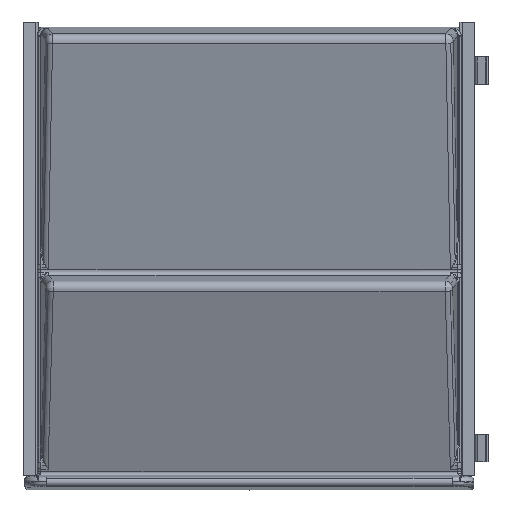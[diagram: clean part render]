
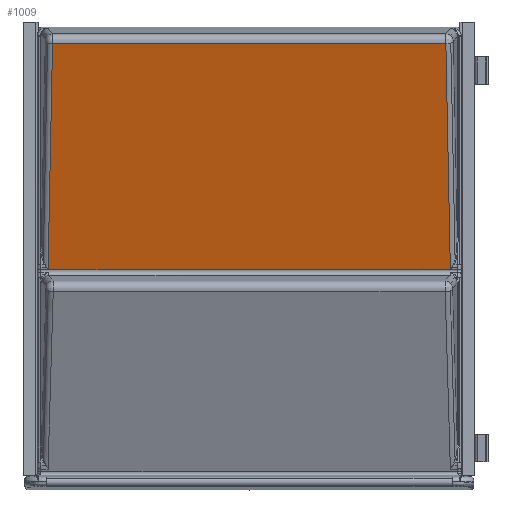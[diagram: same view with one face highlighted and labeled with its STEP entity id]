
A CAD part, top view. The second image highlights one B-rep face of the part: STEP entity #1009.
In plain terms, the highlighted planar face has unit normal (0, -0.272, 0.962).
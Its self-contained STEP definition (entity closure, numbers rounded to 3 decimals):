
#1009=ADVANCED_FACE('',(#2260),#2261,.T.);
#2260=FACE_OUTER_BOUND('',#17558,.T.);
#2261=PLANE('',#17559);
#17558=EDGE_LOOP('',(#25018,#25019,#25020,#25021,#25022,#25023,#25024,#25025));
#17559=AXIS2_PLACEMENT_3D('',#25026,#25027,#25028);
#25018=ORIENTED_EDGE('',*,*,#28021,.F.);
#25019=ORIENTED_EDGE('',*,*,#28285,.T.);
#25020=ORIENTED_EDGE('',*,*,#28287,.F.);
#25021=ORIENTED_EDGE('',*,*,#28288,.F.);
#25022=ORIENTED_EDGE('',*,*,#27980,.F.);
#25023=ORIENTED_EDGE('',*,*,#28289,.F.);
#25024=ORIENTED_EDGE('',*,*,#27968,.F.);
#25025=ORIENTED_EDGE('',*,*,#27966,.F.);
#25026=CARTESIAN_POINT('',(248.5,475.91,110.179));
#25027=DIRECTION('',(0.0,-0.272,0.962));
#25028=DIRECTION('',(0.0,-0.962,-0.272));
#27966=EDGE_CURVE('',#30132,#29950,#30134,.T.);
#27968=EDGE_CURVE('',#29950,#30136,#30137,.T.);
#27980=EDGE_CURVE('',#30150,#30141,#30152,.T.);
#28021=EDGE_CURVE('',#30199,#30132,#30201,.T.);
#28285=EDGE_CURVE('',#30199,#30559,#30561,.T.);
#28287=EDGE_CURVE('',#30563,#30559,#30564,.T.);
#28288=EDGE_CURVE('',#30141,#30563,#30565,.T.);
#28289=EDGE_CURVE('',#30136,#30150,#30566,.T.);
#29950=VERTEX_POINT('',#33128);
#30132=VERTEX_POINT('',#33803);
#30134=LINE('',#33805,#33806);
#30136=VERTEX_POINT('',#33808);
#30137=LINE('',#33809,#33810);
#30141=VERTEX_POINT('',#33814);
#30150=VERTEX_POINT('',#33847);
#30152=LINE('',#33849,#33850);
#30199=VERTEX_POINT('',#33922);
#30201=LINE('',#33924,#33925);
#30559=VERTEX_POINT('',#35267);
#30561=LINE('',#35269,#35270);
#30563=VERTEX_POINT('',#35272);
#30564=LINE('',#35273,#35274);
#30565=LINE('',#35275,#35276);
#30566=LINE('',#35277,#35278);
#33128=CARTESIAN_POINT('',(26.928,227.038,39.744));
#33803=CARTESIAN_POINT('',(19.076,227.038,39.744));
#33805=CARTESIAN_POINT('',(131.0,227.038,39.744));
#33806=VECTOR('',#37822,10.0);
#33808=CARTESIAN_POINT('',(31.854,475.91,110.179));
#33809=CARTESIAN_POINT('',(29.705,367.346,79.453));
#33810=VECTOR('',#37823,10.0);
#33814=CARTESIAN_POINT('',(470.072,227.038,39.744));
#33847=CARTESIAN_POINT('',(465.146,475.91,110.179));
#33849=CARTESIAN_POINT('',(467.295,367.346,79.453));
#33850=VECTOR('',#37842,10.0);
#33922=CARTESIAN_POINT('',(19.072,226.843,39.689));
#33924=CARTESIAN_POINT('',(21.803,364.82,78.739));
#33925=VECTOR('',#37907,10.0);
#35267=CARTESIAN_POINT('',(477.928,226.843,39.689));
#35269=CARTESIAN_POINT('',(248.5,226.843,39.689));
#35270=VECTOR('',#38174,10.0);
#35272=CARTESIAN_POINT('',(477.924,227.038,39.744));
#35273=CARTESIAN_POINT('',(475.197,364.82,78.739));
#35274=VECTOR('',#38175,10.0);
#35275=CARTESIAN_POINT('',(366.0,227.038,39.744));
#35276=VECTOR('',#38176,10.0);
#35277=CARTESIAN_POINT('',(248.5,475.91,110.179));
#35278=VECTOR('',#38177,10.0);
#37822=DIRECTION('',(1.0,0.0,0.0));
#37823=DIRECTION('',(0.019,0.962,0.272));
#37842=DIRECTION('',(0.019,-0.962,-0.272));
#37907=DIRECTION('',(0.019,0.962,0.272));
#38174=DIRECTION('',(1.0,0.0,0.0));
#38175=DIRECTION('',(0.019,-0.962,-0.272));
#38176=DIRECTION('',(1.0,0.0,0.0));
#38177=DIRECTION('',(1.0,0.0,0.0));
